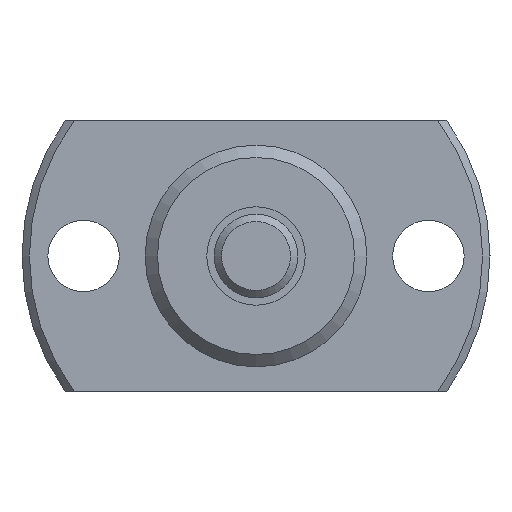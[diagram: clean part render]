
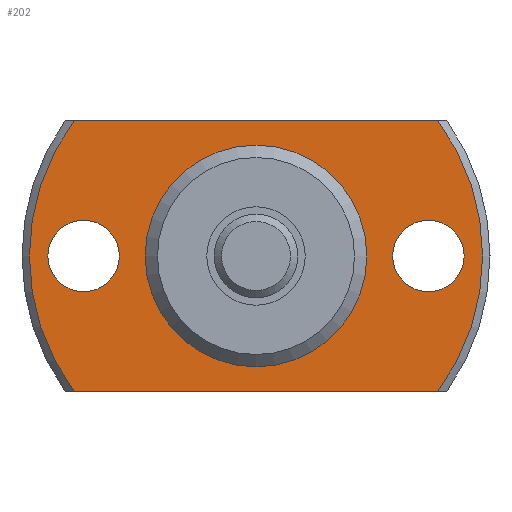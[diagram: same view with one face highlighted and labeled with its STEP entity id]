
A CAD part, left-side view. The second image highlights one B-rep face of the part: STEP entity #202.
In plain terms, the highlighted planar face has unit normal (-1, 0, 0).
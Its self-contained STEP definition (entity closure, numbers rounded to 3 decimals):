
#202 = ADVANCED_FACE( '', ( #270, #271, #272, #273 ), #274, .F. );
#270 = FACE_OUTER_BOUND( '', #360, .T. );
#271 = FACE_BOUND( '', #361, .T. );
#272 = FACE_BOUND( '', #362, .T. );
#273 = FACE_BOUND( '', #363, .T. );
#274 = PLANE( '', #364 );
#360 = EDGE_LOOP( '', ( #529, #530, #531, #532 ) );
#361 = EDGE_LOOP( '', ( #533 ) );
#362 = EDGE_LOOP( '', ( #534 ) );
#363 = EDGE_LOOP( '', ( #535 ) );
#364 = AXIS2_PLACEMENT_3D( '', #536, #537, #538 );
#529 = ORIENTED_EDGE( '', *, *, #646, .F. );
#530 = ORIENTED_EDGE( '', *, *, #647, .F. );
#531 = ORIENTED_EDGE( '', *, *, #648, .F. );
#532 = ORIENTED_EDGE( '', *, *, #631, .F. );
#533 = ORIENTED_EDGE( '', *, *, #649, .T. );
#534 = ORIENTED_EDGE( '', *, *, #650, .T. );
#535 = ORIENTED_EDGE( '', *, *, #651, .T. );
#536 = CARTESIAN_POINT( '', ( 10., 4.35, 0. ) );
#537 = DIRECTION( '', ( 1., 0., 0. ) );
#538 = DIRECTION( '', ( 0., 0., -1. ) );
#631 = EDGE_CURVE( '', #708, #695, #710, .T. );
#646 = EDGE_CURVE( '', #733, #708, #735, .T. );
#647 = EDGE_CURVE( '', #736, #733, #737, .T. );
#648 = EDGE_CURVE( '', #695, #736, #738, .T. );
#649 = EDGE_CURVE( '', #739, #739, #740, .T. );
#650 = EDGE_CURVE( '', #741, #741, #742, .T. );
#651 = EDGE_CURVE( '', #743, #743, #744, .T. );
#695 = VERTEX_POINT( '', #801 );
#708 = VERTEX_POINT( '', #826 );
#710 = LINE( '', #831, #832 );
#733 = VERTEX_POINT( '', #861 );
#735 = CIRCLE( '', #866, 9.2 );
#736 = VERTEX_POINT( '', #867 );
#737 = LINE( '', #868, #869 );
#738 = CIRCLE( '', #870, 9.2 );
#739 = VERTEX_POINT( '', #871 );
#740 = CIRCLE( '', #872, 1.45 );
#741 = VERTEX_POINT( '', #873 );
#742 = CIRCLE( '', #874, 1.45 );
#743 = VERTEX_POINT( '', #875 );
#744 = CIRCLE( '', #876, 4.35 );
#801 = CARTESIAN_POINT( '', ( 10., -7.375, 5.5 ) );
#826 = CARTESIAN_POINT( '', ( 10., 7.375, 5.5 ) );
#831 = CARTESIAN_POINT( '', ( 10., 19., 5.5 ) );
#832 = VECTOR( '', #942, 1000. );
#861 = CARTESIAN_POINT( '', ( 10., 7.375, -5.5 ) );
#866 = AXIS2_PLACEMENT_3D( '', #973, #974, #975 );
#867 = CARTESIAN_POINT( '', ( 10., -7.375, -5.5 ) );
#868 = CARTESIAN_POINT( '', ( 10., -19., -5.5 ) );
#869 = VECTOR( '', #976, 1000. );
#870 = AXIS2_PLACEMENT_3D( '', #977, #978, #979 );
#871 = CARTESIAN_POINT( '', ( 10., 7., -1.45 ) );
#872 = AXIS2_PLACEMENT_3D( '', #980, #981, #982 );
#873 = CARTESIAN_POINT( '', ( 10., -7., -1.45 ) );
#874 = AXIS2_PLACEMENT_3D( '', #983, #984, #985 );
#875 = CARTESIAN_POINT( '', ( 10., 0., -4.35 ) );
#876 = AXIS2_PLACEMENT_3D( '', #986, #987, #988 );
#942 = DIRECTION( '', ( 0., -1., 0. ) );
#973 = CARTESIAN_POINT( '', ( 10., 0., 0. ) );
#974 = DIRECTION( '', ( 1., 0., 0. ) );
#975 = DIRECTION( '', ( 0., 0., -1. ) );
#976 = DIRECTION( '', ( 0., 1., 0. ) );
#977 = CARTESIAN_POINT( '', ( 10., 0., 0. ) );
#978 = DIRECTION( '', ( 1., 0., 0. ) );
#979 = DIRECTION( '', ( 0., 0., -1. ) );
#980 = CARTESIAN_POINT( '', ( 10., 7., 0. ) );
#981 = DIRECTION( '', ( 1., 0., 0. ) );
#982 = DIRECTION( '', ( 0., 0., -1. ) );
#983 = CARTESIAN_POINT( '', ( 10., -7., 0. ) );
#984 = DIRECTION( '', ( 1., 0., 0. ) );
#985 = DIRECTION( '', ( 0., 0., -1. ) );
#986 = CARTESIAN_POINT( '', ( 10., 0., 0. ) );
#987 = DIRECTION( '', ( 1., 0., 0. ) );
#988 = DIRECTION( '', ( 0., 0., -1. ) );
